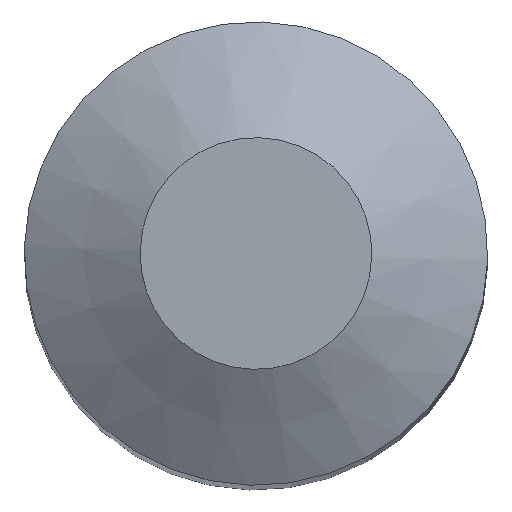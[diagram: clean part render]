
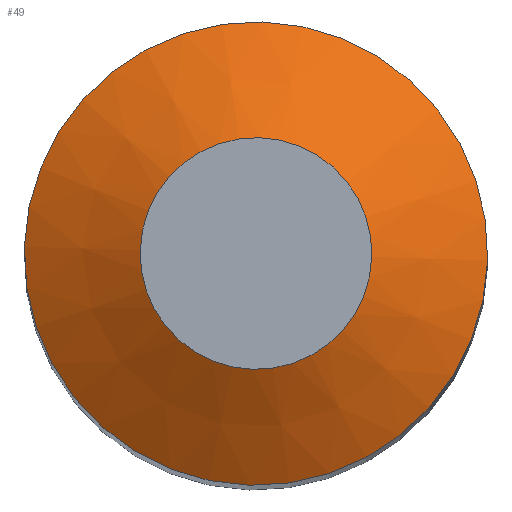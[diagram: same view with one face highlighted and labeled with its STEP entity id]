
A CAD part, top view. The second image highlights one B-rep face of the part: STEP entity #49.
In plain terms, the highlighted conical face has half-angle 60 degrees and reference radius 3 mm.
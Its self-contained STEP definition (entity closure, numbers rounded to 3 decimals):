
#49=ADVANCED_FACE('',(#66,#67),#57,.T.);
#57=CONICAL_SURFACE('',#151,3.,60.);
#66=FACE_BOUND('',#78,.T.);
#67=FACE_BOUND('',#79,.T.);
#78=EDGE_LOOP('',(#92));
#79=EDGE_LOOP('',(#93));
#92=ORIENTED_EDGE('',*,*,#112,.F.);
#93=ORIENTED_EDGE('',*,*,#111,.T.);
#103=VERTEX_POINT('',#207);
#104=VERTEX_POINT('',#210);
#111=EDGE_CURVE('',#103,#103,#118,.T.);
#112=EDGE_CURVE('',#104,#104,#119,.T.);
#118=CIRCLE('',#148,3.);
#119=CIRCLE('',#150,1.5);
#148=AXIS2_PLACEMENT_3D('',#206,#173,#174);
#150=AXIS2_PLACEMENT_3D('',#209,#177,#178);
#151=AXIS2_PLACEMENT_3D('',#211,#179,#180);
#173=DIRECTION('',(0.,0.,1.));
#174=DIRECTION('',(0.785,0.62,0.));
#177=DIRECTION('',(0.,0.,1.));
#178=DIRECTION('',(0.785,0.62,0.));
#179=DIRECTION('',(0.,0.,-1.));
#180=DIRECTION('',(-0.785,-0.62,0.));
#206=CARTESIAN_POINT('',(0.,0.,-0.866));
#207=CARTESIAN_POINT('',(2.354,1.86,-0.866));
#209=CARTESIAN_POINT('',(0.,0.,0.));
#210=CARTESIAN_POINT('',(1.177,0.93,0.));
#211=CARTESIAN_POINT('',(0.,0.,-0.866));
